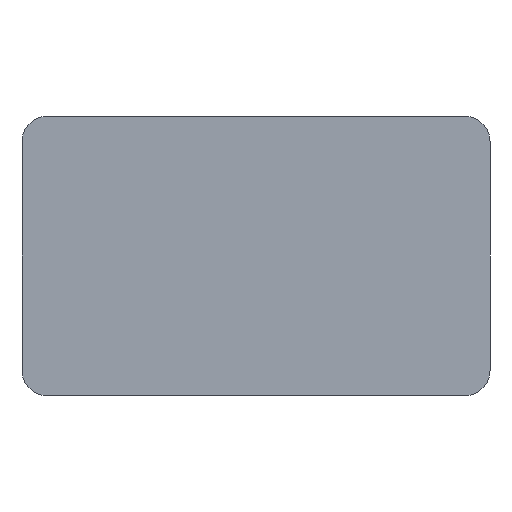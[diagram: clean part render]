
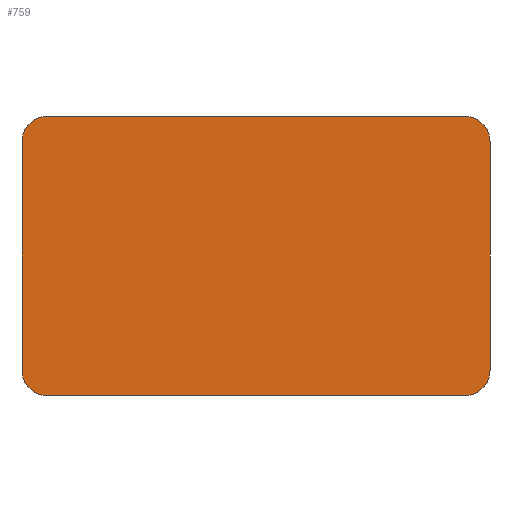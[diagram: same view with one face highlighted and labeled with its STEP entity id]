
A CAD part, front view. The second image highlights one B-rep face of the part: STEP entity #759.
In plain terms, the highlighted planar face has unit normal (0, -1, 0).
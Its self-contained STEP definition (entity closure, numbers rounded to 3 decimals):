
#15 = DIRECTION ( 'NONE',  ( 0., -1., 0. ) ) ;
#47 = EDGE_LOOP ( 'NONE', ( #1077, #153, #1030, #1670, #2089, #2300, #495, #330 ) ) ;
#76 = CARTESIAN_POINT ( 'NONE',  ( 92., 0., 27.5 ) ) ;
#153 = ORIENTED_EDGE ( 'NONE', *, *, #424, .T. ) ;
#309 = AXIS2_PLACEMENT_3D ( 'NONE', #2323, #2140, #509 ) ;
#330 = ORIENTED_EDGE ( 'NONE', *, *, #1544, .T. ) ;
#343 = CARTESIAN_POINT ( 'NONE',  ( 0., 0., 22.5 ) ) ;
#378 = CARTESIAN_POINT ( 'NONE',  ( 0., 0., -22.5 ) ) ;
#424 = EDGE_CURVE ( 'NONE', #1772, #1096, #1937, .T. ) ;
#443 = EDGE_CURVE ( 'NONE', #1772, #1489, #570, .T. ) ;
#491 = CARTESIAN_POINT ( 'NONE',  ( 92., 0., -27.5 ) ) ;
#495 = ORIENTED_EDGE ( 'NONE', *, *, #976, .F. ) ;
#496 = CARTESIAN_POINT ( 'NONE',  ( 5., 0., -27.5 ) ) ;
#509 = DIRECTION ( 'NONE',  ( 0., 0., 1. ) ) ;
#541 = PLANE ( 'NONE',  #2093 ) ;
#570 = LINE ( 'NONE', #758, #911 ) ;
#590 = CARTESIAN_POINT ( 'NONE',  ( 92., 0., -22.5 ) ) ;
#602 = CARTESIAN_POINT ( 'NONE',  ( 87., 0., -22.5 ) ) ;
#620 = VERTEX_POINT ( 'NONE', #1909 ) ;
#644 = VERTEX_POINT ( 'NONE', #496 ) ;
#645 = AXIS2_PLACEMENT_3D ( 'NONE', #1407, #15, #2144 ) ;
#650 = AXIS2_PLACEMENT_3D ( 'NONE', #785, #1486, #2039 ) ;
#674 = LINE ( 'NONE', #1398, #2208 ) ;
#743 = EDGE_CURVE ( 'NONE', #776, #1096, #674, .T. ) ;
#751 = VECTOR ( 'NONE', #1707, 1000. ) ;
#758 = CARTESIAN_POINT ( 'NONE',  ( 0., 0., 27.5 ) ) ;
#759 = ADVANCED_FACE ( 'NONE', ( #1137 ), #541, .F. ) ;
#767 = CARTESIAN_POINT ( 'NONE',  ( 87., 0., -27.5 ) ) ;
#776 = VERTEX_POINT ( 'NONE', #378 ) ;
#785 = CARTESIAN_POINT ( 'NONE',  ( 5., 0., -22.5 ) ) ;
#805 = VERTEX_POINT ( 'NONE', #590 ) ;
#809 = CIRCLE ( 'NONE', #2325, 5. ) ;
#911 = VECTOR ( 'NONE', #1084, 1000. ) ;
#923 = DIRECTION ( 'NONE',  ( 0., -1., 0. ) ) ;
#932 = CARTESIAN_POINT ( 'NONE',  ( 0., 0., 0. ) ) ;
#976 = EDGE_CURVE ( 'NONE', #620, #805, #1907, .T. ) ;
#1030 = ORIENTED_EDGE ( 'NONE', *, *, #743, .F. ) ;
#1077 = ORIENTED_EDGE ( 'NONE', *, *, #443, .F. ) ;
#1084 = DIRECTION ( 'NONE',  ( 1., 0., 0. ) ) ;
#1085 = EDGE_CURVE ( 'NONE', #1240, #644, #1238, .T. ) ;
#1096 = VERTEX_POINT ( 'NONE', #343 ) ;
#1137 = FACE_OUTER_BOUND ( 'NONE', #47, .T. ) ;
#1216 = DIRECTION ( 'NONE',  ( -1., 0., 0. ) ) ;
#1238 = LINE ( 'NONE', #491, #1702 ) ;
#1240 = VERTEX_POINT ( 'NONE', #767 ) ;
#1398 = CARTESIAN_POINT ( 'NONE',  ( 0., 0., -27.5 ) ) ;
#1407 = CARTESIAN_POINT ( 'NONE',  ( 87., 0., 22.5 ) ) ;
#1486 = DIRECTION ( 'NONE',  ( 0., -1., 0. ) ) ;
#1489 = VERTEX_POINT ( 'NONE', #1980 ) ;
#1544 = EDGE_CURVE ( 'NONE', #620, #1489, #2246, .T. ) ;
#1669 = DIRECTION ( 'NONE',  ( 0., 0., 1. ) ) ;
#1670 = ORIENTED_EDGE ( 'NONE', *, *, #1802, .T. ) ;
#1679 = DIRECTION ( 'NONE',  ( 0., 0., 1. ) ) ;
#1701 = EDGE_CURVE ( 'NONE', #1240, #805, #809, .T. ) ;
#1702 = VECTOR ( 'NONE', #1216, 1000. ) ;
#1707 = DIRECTION ( 'NONE',  ( 0., 0., -1. ) ) ;
#1772 = VERTEX_POINT ( 'NONE', #2222 ) ;
#1802 = EDGE_CURVE ( 'NONE', #776, #644, #2210, .T. ) ;
#1907 = LINE ( 'NONE', #76, #751 ) ;
#1909 = CARTESIAN_POINT ( 'NONE',  ( 92., 0., 22.5 ) ) ;
#1937 = CIRCLE ( 'NONE', #309, 5. ) ;
#1980 = CARTESIAN_POINT ( 'NONE',  ( 87., 0., 27.5 ) ) ;
#2022 = DIRECTION ( 'NONE',  ( 0., 1., 0. ) ) ;
#2039 = DIRECTION ( 'NONE',  ( 0., 0., 1. ) ) ;
#2089 = ORIENTED_EDGE ( 'NONE', *, *, #1085, .F. ) ;
#2093 = AXIS2_PLACEMENT_3D ( 'NONE', #932, #2022, #1669 ) ;
#2124 = DIRECTION ( 'NONE',  ( 0., 0., 1. ) ) ;
#2140 = DIRECTION ( 'NONE',  ( 0., -1., 0. ) ) ;
#2144 = DIRECTION ( 'NONE',  ( 0., 0., 1. ) ) ;
#2208 = VECTOR ( 'NONE', #2124, 1000. ) ;
#2210 = CIRCLE ( 'NONE', #650, 5. ) ;
#2222 = CARTESIAN_POINT ( 'NONE',  ( 5., 0., 27.5 ) ) ;
#2246 = CIRCLE ( 'NONE', #645, 5. ) ;
#2300 = ORIENTED_EDGE ( 'NONE', *, *, #1701, .T. ) ;
#2323 = CARTESIAN_POINT ( 'NONE',  ( 5., 0., 22.5 ) ) ;
#2325 = AXIS2_PLACEMENT_3D ( 'NONE', #602, #923, #1679 ) ;
